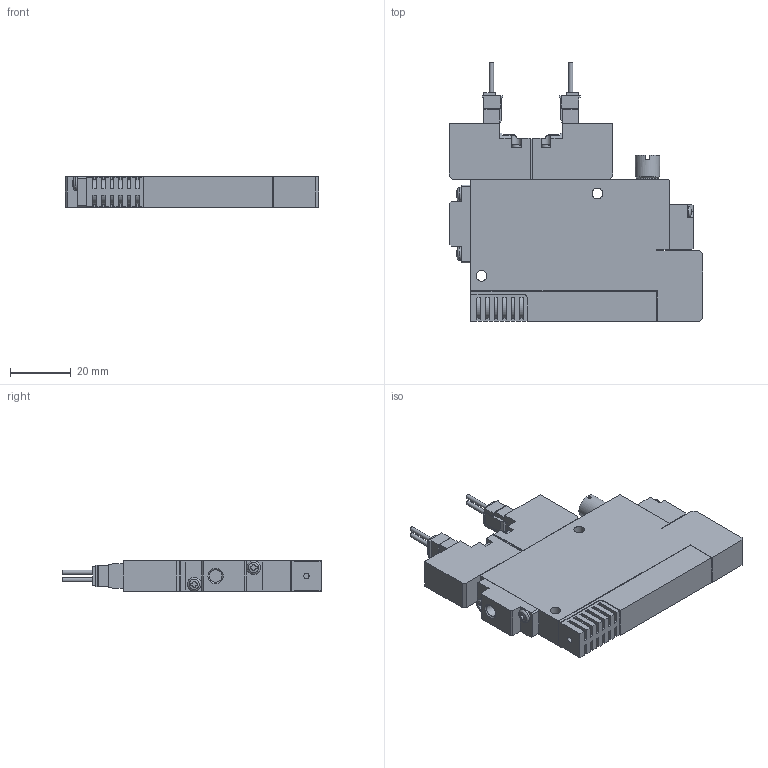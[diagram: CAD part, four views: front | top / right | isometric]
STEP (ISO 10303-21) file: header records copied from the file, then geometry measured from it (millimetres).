
FILE_DESCRIPTION(('STEP AP203'),'1');
FILE_NAME('5SS_3D.stp','2024-09-04T23:21:15',(' '),(' '),'Spatial InterOp 3D',' ',' ');
FILE_SCHEMA(('CONFIG_CONTROL_DESIGN'));
Length unit declared in the file: millimetre
Products named in the file (5): BSC1S※※ZZ※5SS; Solenoid valve S; Pressure Sensor ZZ; Unit-S; BaseSS10R
Assembly tree (4 placements, depth 2):
  BSC1S※※ZZ※5SS
    Solenoid valve S
    Pressure Sensor ZZ
    Unit-S
    BaseSS10R
Bounding box: 83.05 x 85.05 x 10 mm (x, y, z)
Volume: 41838.1 mm3; surface area: 17488.3 mm2
Topology: 4 solids, 4 shells, 447 faces, 1227 edges, 813 vertices
Faces by surface type: plane 337, cylinder 98, sphere 4, cone 4, torus 4
Full cylindrical faces by diameter (mm): 1.4 x4, 1.8 x1, 3 x4, 3.5 x6, 4.134 x3, 4.5 x2, 5.5 x1, 7 x1, 7.7 x1, 8 x1
Entity records: 14374 total; most frequent: CARTESIAN_POINT 2850, ORIENTED_EDGE 2356, DIRECTION 2254, EDGE_CURVE 1178, LINE 926, VECTOR 926, VERTEX_POINT 800, AXIS2_PLACEMENT_3D 664
